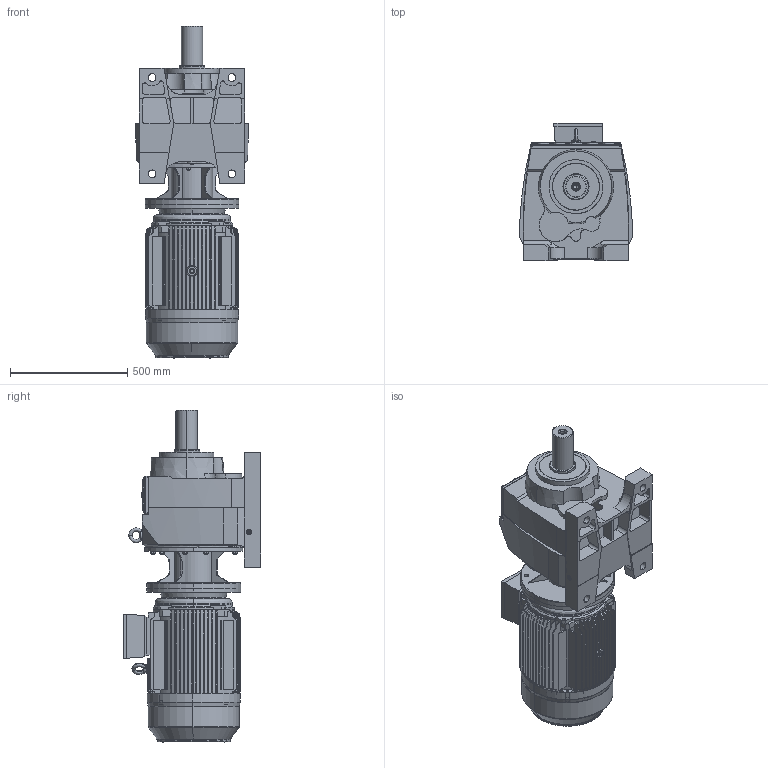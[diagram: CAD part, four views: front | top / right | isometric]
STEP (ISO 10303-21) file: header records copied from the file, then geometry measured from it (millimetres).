
FILE_DESCRIPTION (( 'STEP AP203' ), '1' );
FILE_NAME ('MV772-MV773-M3-200L.STEP', '2019-07-24T11:26:21', ( '' ), ( '' ), 'SwSTEP 2.0', 'SolidWorks 2012', '' );
FILE_SCHEMA (( 'CONFIG_CONTROL_DESIGN' ));
Products named in the file (15): MV772-MV773-M3-200L; Plain parallel keys_GB_CONNECTING_PIECE_KEYS_CSK 16X100; 200-4B5; ﾍﾟYE3-200L-4.6.8C+ﾎA+ｳ_-ｼ+､; Y2-200-2.4.6.8ｦｾﾂ-ｩﾃ_-ｼ+､; Y2-200-4.6.8Ã¦Íß¦ð-Ô©Ã_-¼+¤; Y2-200-4.6.8¦¾Íß¦ð-Ô©Ã_-¼+¤; Y2-200+ｷﾎｨB5_-ｼ+､; Y2-200-4.6.8-ｦﾈﾁﾂ-ｩﾃ_-ｼ+､; Eyebolts GB_GB_FASTENER_SCREWS_FRS M16-N; MN2-200ﾀiﾍ_-ｼ+､; M773_Varsayìlan; ML7A_Varsayìlan; 73200B5_Varsayìlan; MN_77_3_0_A-B20_B5_ML7A_0_0_0_0_0_0_0_0_0_0_0_0_M1
Assembly tree (14 placements, depth 3):
  MV772-MV773-M3-200L
    MN_77_3_0_A-B20_B5_ML7A_0_0_0_0_0_0_0_0_0_0_0_0_M1
      M773_Varsayìlan
      73200B5_Varsayìlan
      ML7A_Varsayìlan
    200-4B5
      Y2-200-4.6.8-ｦﾈﾁﾂ-ｩﾃ_-ｼ+､
      MN2-200ﾀiﾍ_-ｼ+､
      Eyebolts GB_GB_FASTENER_SCREWS_FRS M16-N
      Y2-200+ｷﾎｨB5_-ｼ+､
      Y2-200-4.6.8Ã¦Íß¦ð-Ô©Ã_-¼+¤
      ﾍﾟYE3-200L-4.6.8C+ﾎA+ｳ_-ｼ+､
      Y2-200-2.4.6.8ｦｾﾂ-ｩﾃ_-ｼ+､
      Y2-200-4.6.8¦¾Íß¦ð-Ô©Ã_-¼+¤
      Plain parallel keys_GB_CONNECTING_PIECE_KEYS_CSK 16X100
Bounding box: 480 x 587.01 x 1414.7 mm (x, y, z)
Volume: 97453786.8 mm3; surface area: 6065891.3 mm2
Topology: 12 solids, 12 shells, 2259 faces, 5710 edges, 3602 vertices
Faces by surface type: plane 837, cylinder 662, cone 583, bspline 177
Entity records: 86000 total; most frequent: CARTESIAN_POINT 31583, ORIENTED_EDGE 11416, DIRECTION 10653, EDGE_CURVE 5708, AXIS2_PLACEMENT_3D 4104, VERTEX_POINT 3602, EDGE_LOOP 2486, VECTOR 2445
